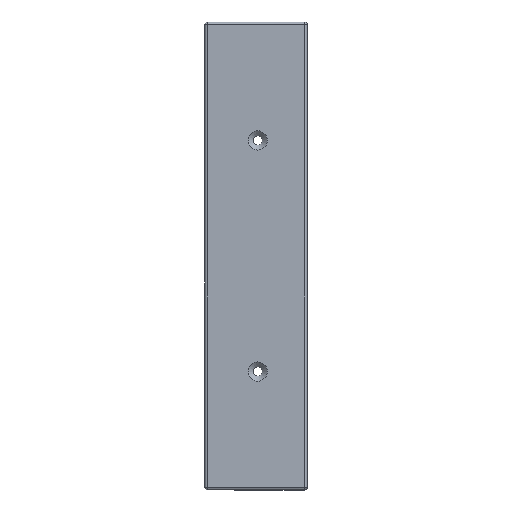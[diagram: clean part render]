
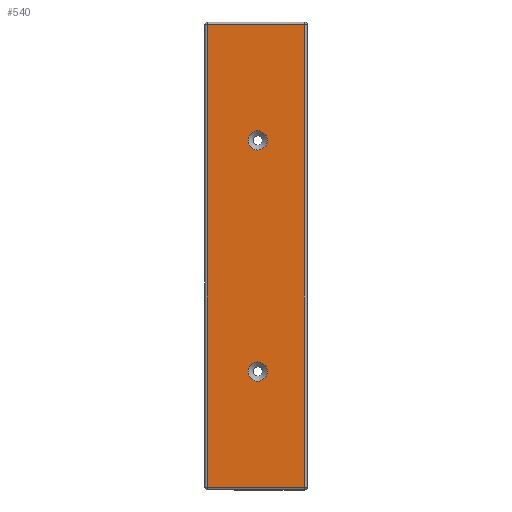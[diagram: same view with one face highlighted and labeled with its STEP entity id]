
A CAD part, top view. The second image highlights one B-rep face of the part: STEP entity #540.
In plain terms, the highlighted planar face has unit normal (0, 0, 1).
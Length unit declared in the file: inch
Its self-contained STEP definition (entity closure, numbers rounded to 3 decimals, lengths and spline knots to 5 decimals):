
#17=FACE_BOUND('',#135,.T.);
#18=FACE_BOUND('',#136,.T.);
#26=PLANE('',#632);
#96=FACE_OUTER_BOUND('',#134,.T.);
#134=EDGE_LOOP('',(#497,#498,#499,#500));
#135=EDGE_LOOP('',(#501));
#136=EDGE_LOOP('',(#502));
#146=LINE('',#969,#184);
#161=LINE('',#1016,#199);
#165=LINE('',#1022,#203);
#172=LINE('',#1035,#210);
#184=VECTOR('',#714,0.3937);
#199=VECTOR('',#771,0.3937);
#203=VECTOR('',#779,0.3937);
#210=VECTOR('',#794,0.3937);
#213=CIRCLE('',#564,0.165);
#216=CIRCLE('',#568,0.165);
#241=VERTEX_POINT('',#815);
#244=VERTEX_POINT('',#823);
#249=VERTEX_POINT('',#880);
#252=VERTEX_POINT('',#928);
#259=VERTEX_POINT('',#947);
#265=VERTEX_POINT('',#961);
#281=EDGE_CURVE('',#241,#241,#213,.T.);
#285=EDGE_CURVE('',#244,#244,#216,.T.);
#315=EDGE_CURVE('',#265,#252,#146,.T.);
#340=EDGE_CURVE('',#259,#265,#161,.T.);
#344=EDGE_CURVE('',#249,#259,#165,.T.);
#352=EDGE_CURVE('',#252,#249,#172,.T.);
#497=ORIENTED_EDGE('',*,*,#344,.F.);
#498=ORIENTED_EDGE('',*,*,#352,.F.);
#499=ORIENTED_EDGE('',*,*,#315,.F.);
#500=ORIENTED_EDGE('',*,*,#340,.F.);
#501=ORIENTED_EDGE('',*,*,#281,.T.);
#502=ORIENTED_EDGE('',*,*,#285,.T.);
#540=ADVANCED_FACE('',(#96,#17,#18),#26,.T.);
#564=AXIS2_PLACEMENT_3D('',#816,#637,#638);
#568=AXIS2_PLACEMENT_3D('',#824,#646,#647);
#632=AXIS2_PLACEMENT_3D('',#1045,#811,#812);
#637=DIRECTION('center_axis',(0.,0.,-1.));
#638=DIRECTION('ref_axis',(1.,0.,0.));
#646=DIRECTION('center_axis',(0.,0.,-1.));
#647=DIRECTION('ref_axis',(1.,0.,0.));
#714=DIRECTION('',(-1.,0.,0.));
#771=DIRECTION('',(0.,-1.,0.));
#779=DIRECTION('',(1.,0.,0.));
#794=DIRECTION('',(0.,1.,0.));
#811=DIRECTION('center_axis',(0.,0.,1.));
#812=DIRECTION('ref_axis',(1.,0.,0.));
#815=CARTESIAN_POINT('',(-1.01119,5.975,0.));
#816=CARTESIAN_POINT('Origin',(-0.84619,5.975,0.));
#823=CARTESIAN_POINT('',(-1.01119,2.025,0.));
#824=CARTESIAN_POINT('Origin',(-0.84619,2.025,0.));
#880=CARTESIAN_POINT('',(-1.71,7.95,0.));
#928=CARTESIAN_POINT('',(-1.71,0.05,0.));
#947=CARTESIAN_POINT('',(-0.05,7.95,0.));
#961=CARTESIAN_POINT('',(-0.05,0.05,0.));
#969=CARTESIAN_POINT('',(-1.2925,0.05,0.));
#1016=CARTESIAN_POINT('',(-0.05,0.,0.));
#1022=CARTESIAN_POINT('',(-1.2925,7.95,0.));
#1035=CARTESIAN_POINT('',(-1.71,0.,0.));
#1045=CARTESIAN_POINT('Origin',(-1.71,0.,0.));
